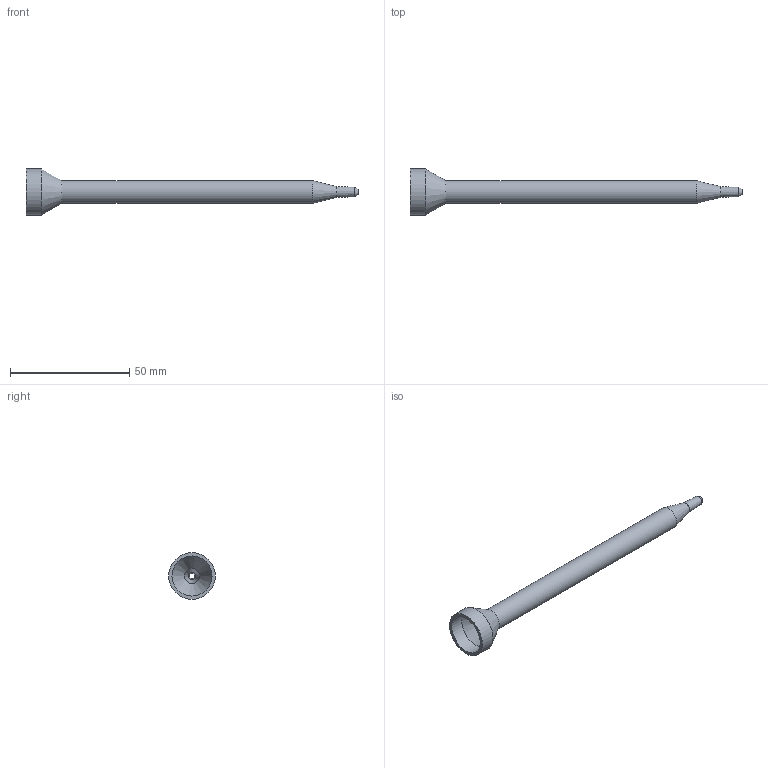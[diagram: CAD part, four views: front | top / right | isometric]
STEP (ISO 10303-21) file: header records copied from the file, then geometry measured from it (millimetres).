
FILE_DESCRIPTION (( 'STEP AP214' ), '1' );
FILE_NAME ('Mixer 6-16.STEP', '2024-10-11T14:42:27', ( '' ), ( '' ), 'SwSTEP 2.0', 'SolidWorks 2024', '' );
FILE_SCHEMA (( 'AUTOMOTIVE_DESIGN' ));
Length unit declared in the file: millimetre
Products named in the file (1): Mixer 6-16
Bounding box: 139 x 19.5 x 19.5 mm (x, y, z)
Volume: 5458 mm3; surface area: 7401.1 mm2
Topology: 1 solids, 1 shells, 12 faces, 27 edges, 16 vertices
Faces by surface type: cone 7, cylinder 4, plane 1
Full cylindrical faces by diameter (mm): 6.4 x1, 9.5 x1, 16.8 x1, 19.5 x1
Entity records: 271 total; most frequent: DIRECTION 50, CARTESIAN_POINT 37, AXIS2_PLACEMENT_3D 25, EDGE_LOOP 24, ORIENTED_EDGE 24, FACE_OUTER_BOUND 16, CIRCLE 12, ADVANCED_FACE 12
